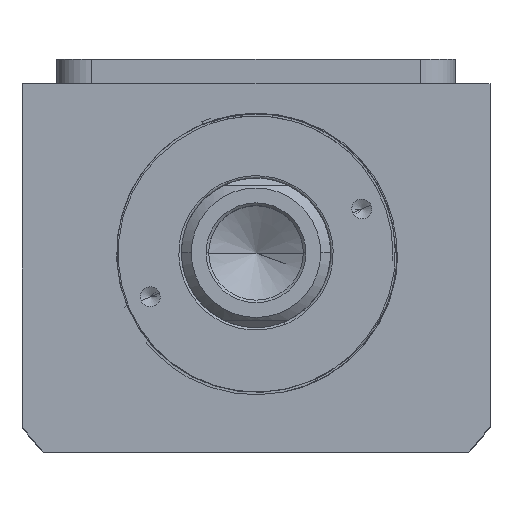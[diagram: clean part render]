
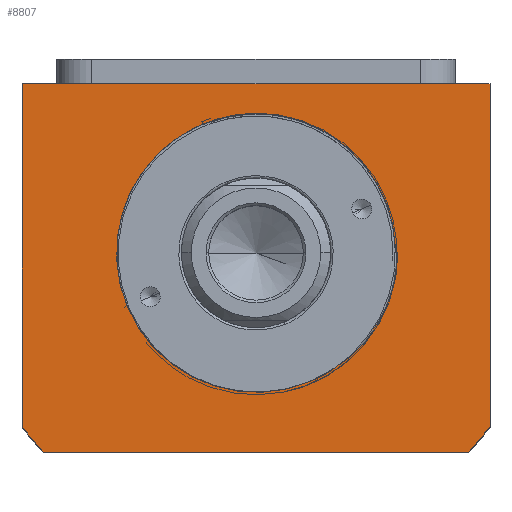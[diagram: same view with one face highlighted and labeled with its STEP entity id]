
A CAD part, top view. The second image highlights one B-rep face of the part: STEP entity #8807.
In plain terms, the highlighted planar face has unit normal (0, 0, 1).
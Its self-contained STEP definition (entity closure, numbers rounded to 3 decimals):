
#155 = CARTESIAN_POINT ( 'NONE',  ( 47., -34.832, 50. ) ) ;
#314 = DIRECTION ( 'NONE',  ( 0., 0., 1. ) ) ;
#332 = CARTESIAN_POINT ( 'NONE',  ( 28., 0., 50. ) ) ;
#530 = EDGE_LOOP ( 'NONE', ( #3583, #7788, #3689, #3619, #9354, #2930 ) ) ;
#596 = CARTESIAN_POINT ( 'NONE',  ( 42.688, -40., 50. ) ) ;
#641 = CARTESIAN_POINT ( 'NONE',  ( 18.667, -21.077, 50. ) ) ;
#672 = VERTEX_POINT ( 'NONE', #4796 ) ;
#938 = DIRECTION ( 'NONE',  ( 0., -1., 0. ) ) ;
#963 = EDGE_CURVE ( 'NONE', #672, #6047, #2236, .T. ) ;
#1000 = ORIENTED_EDGE ( 'NONE', *, *, #8253, .F. ) ;
#1038 = FACE_OUTER_BOUND ( 'NONE', #530, .T. ) ;
#1181 = VECTOR ( 'NONE', #4981, 1000. ) ;
#1433 = VECTOR ( 'NONE', #3213, 1000. ) ;
#1438 = CARTESIAN_POINT ( 'NONE',  ( 0., 0., 50. ) ) ;
#1664 = CARTESIAN_POINT ( 'NONE',  ( 12.831, -24.945, 50. ) ) ;
#1739 = AXIS2_PLACEMENT_3D ( 'NONE', #10869, #5500, #10907 ) ;
#2227 = EDGE_CURVE ( 'NONE', #10815, #672, #11409, .T. ) ;
#2236 = LINE ( 'NONE', #8046, #3635 ) ;
#2237 = ORIENTED_EDGE ( 'NONE', *, *, #2239, .T. ) ;
#2239 = EDGE_CURVE ( 'NONE', #6046, #7389, #2553, .T. ) ;
#2444 = CARTESIAN_POINT ( 'NONE',  ( 28.323, -2.832, 50. ) ) ;
#2518 = CARTESIAN_POINT ( 'NONE',  ( 27.555, -6.99, 50. ) ) ;
#2550 = DIRECTION ( 'NONE',  ( 1., 0., 0. ) ) ;
#2553 = CIRCLE ( 'NONE', #1739, 28. ) ;
#2711 = CARTESIAN_POINT ( 'NONE',  ( -47., 34., 50. ) ) ;
#2930 = ORIENTED_EDGE ( 'NONE', *, *, #11539, .T. ) ;
#3070 = PLANE ( 'NONE',  #3555 ) ;
#3213 = DIRECTION ( 'NONE',  ( 0., 1., 0. ) ) ;
#3307 = CARTESIAN_POINT ( 'NONE',  ( 10.89, -25.816, 50. ) ) ;
#3341 = CARTESIAN_POINT ( 'NONE',  ( 28.233, -3.538, 50. ) ) ;
#3455 = AXIS2_PLACEMENT_3D ( 'NONE', #5750, #314, #6511 ) ;
#3555 = AXIS2_PLACEMENT_3D ( 'NONE', #10256, #9345, #10342 ) ;
#3583 = ORIENTED_EDGE ( 'NONE', *, *, #2227, .T. ) ;
#3619 = ORIENTED_EDGE ( 'NONE', *, *, #10248, .T. ) ;
#3635 = VECTOR ( 'NONE', #938, 1000. ) ;
#3689 = ORIENTED_EDGE ( 'NONE', *, *, #5251, .T. ) ;
#3692 = FACE_BOUND ( 'NONE', #8442, .T. ) ;
#3895 = CARTESIAN_POINT ( 'NONE',  ( 47., 34., 50. ) ) ;
#3975 = CARTESIAN_POINT ( 'NONE',  ( -47., -34.832, 50. ) ) ;
#4008 = EDGE_CURVE ( 'NONE', #4150, #6046, #4642, .T. ) ;
#4150 = VERTEX_POINT ( 'NONE', #4777 ) ;
#4185 = CARTESIAN_POINT ( 'NONE',  ( 27.887, -5.628, 50. ) ) ;
#4197 = EDGE_CURVE ( 'NONE', #5946, #8640, #9829, .T. ) ;
#4223 = CARTESIAN_POINT ( 'NONE',  ( 24.898, -13.504, 50. ) ) ;
#4298 = CARTESIAN_POINT ( 'NONE',  ( 24.178, -14.712, 50. ) ) ;
#4642 = B_SPLINE_CURVE_WITH_KNOTS ( 'NONE', 3,
 ( #10565, #11353, #5170, #2444, #3341, #4185, #2518, #9618, #6069, #4223, #4298, #5950, #11438, #6952, #5098, #641, #8635, #10488, #6872, #6113, #1664, #8668, #3307, #8894 ),
 .UNSPECIFIED., .F., .F.,
 ( 4, 2, 2, 2, 2, 2, 2, 2, 2, 2, 2, 4 ),
 ( 0., 0.002, 0.004, 0.009, 0.013, 0.017, 0.021, 0.023, 0.026, 0.03, 0.032, 0.034 ),
 .UNSPECIFIED. ) ;
#4777 = CARTESIAN_POINT ( 'NONE',  ( 28.495, 0., 50. ) ) ;
#4796 = CARTESIAN_POINT ( 'NONE',  ( -47., 34., 50. ) ) ;
#4981 = DIRECTION ( 'NONE',  ( 1., 0., 0. ) ) ;
#5098 = CARTESIAN_POINT ( 'NONE',  ( 19.714, -20.129, 50. ) ) ;
#5162 = CARTESIAN_POINT ( 'NONE',  ( 42.688, -40., 50. ) ) ;
#5170 = CARTESIAN_POINT ( 'NONE',  ( 28.449, -1.419, 50. ) ) ;
#5251 = EDGE_CURVE ( 'NONE', #6047, #11116, #7850, .T. ) ;
#5327 = ORIENTED_EDGE ( 'NONE', *, *, #4008, .T. ) ;
#5500 = DIRECTION ( 'NONE',  ( 0., 0., -1. ) ) ;
#5706 = AXIS2_PLACEMENT_3D ( 'NONE', #9640, #7013, #2550 ) ;
#5750 = CARTESIAN_POINT ( 'NONE',  ( 0., 0., 50. ) ) ;
#5946 = VERTEX_POINT ( 'NONE', #5162 ) ;
#5950 = CARTESIAN_POINT ( 'NONE',  ( 22.571, -17.007, 50. ) ) ;
#6046 = VERTEX_POINT ( 'NONE', #9511 ) ;
#6047 = VERTEX_POINT ( 'NONE', #3975 ) ;
#6069 = CARTESIAN_POINT ( 'NONE',  ( 26.163, -10.961, 50. ) ) ;
#6079 = CARTESIAN_POINT ( 'NONE',  ( -42.688, -40., 50. ) ) ;
#6113 = CARTESIAN_POINT ( 'NONE',  ( 13.459, -24.624, 50. ) ) ;
#6190 = LINE ( 'NONE', #596, #1181 ) ;
#6487 = LINE ( 'NONE', #1438, #7479 ) ;
#6511 = DIRECTION ( 'NONE',  ( 1., 0., 0. ) ) ;
#6620 = VECTOR ( 'NONE', #9842, 1000. ) ;
#6872 = CARTESIAN_POINT ( 'NONE',  ( 15.3, -23.593, 50. ) ) ;
#6952 = CARTESIAN_POINT ( 'NONE',  ( 20.224, -19.631, 50. ) ) ;
#7013 = DIRECTION ( 'NONE',  ( 0., 0., 1. ) ) ;
#7389 = VERTEX_POINT ( 'NONE', #332 ) ;
#7479 = VECTOR ( 'NONE', #7690, 1000. ) ;
#7690 = DIRECTION ( 'NONE',  ( -1., 0., 0. ) ) ;
#7788 = ORIENTED_EDGE ( 'NONE', *, *, #963, .T. ) ;
#7850 = CIRCLE ( 'NONE', #5706, 58.5 ) ;
#8046 = CARTESIAN_POINT ( 'NONE',  ( -47., -34.832, 50. ) ) ;
#8253 = EDGE_CURVE ( 'NONE', #4150, #7389, #6487, .T. ) ;
#8442 = EDGE_LOOP ( 'NONE', ( #1000, #5327, #2237 ) ) ;
#8616 = CARTESIAN_POINT ( 'NONE',  ( 47., 34., 50. ) ) ;
#8635 = CARTESIAN_POINT ( 'NONE',  ( 18.129, -21.529, 50. ) ) ;
#8640 = VERTEX_POINT ( 'NONE', #155 ) ;
#8668 = CARTESIAN_POINT ( 'NONE',  ( 11.542, -25.544, 50. ) ) ;
#8807 = ADVANCED_FACE ( 'NONE', ( #3692, #1038 ), #3070, .T. ) ;
#8894 = CARTESIAN_POINT ( 'NONE',  ( 10.232, -26.064, 50. ) ) ;
#9265 = LINE ( 'NONE', #8616, #1433 ) ;
#9345 = DIRECTION ( 'NONE',  ( 0., 0., 1. ) ) ;
#9354 = ORIENTED_EDGE ( 'NONE', *, *, #4197, .T. ) ;
#9511 = CARTESIAN_POINT ( 'NONE',  ( 10.232, -26.064, 50. ) ) ;
#9618 = CARTESIAN_POINT ( 'NONE',  ( 26.694, -9.657, 50. ) ) ;
#9640 = CARTESIAN_POINT ( 'NONE',  ( 0., 0., 50. ) ) ;
#9829 = CIRCLE ( 'NONE', #3455, 58.5 ) ;
#9842 = DIRECTION ( 'NONE',  ( -1., 0., 0. ) ) ;
#10248 = EDGE_CURVE ( 'NONE', #11116, #5946, #6190, .T. ) ;
#10256 = CARTESIAN_POINT ( 'NONE',  ( 0., 0., 50. ) ) ;
#10342 = DIRECTION ( 'NONE',  ( 1., 0., 0. ) ) ;
#10488 = CARTESIAN_POINT ( 'NONE',  ( 16.467, -22.819, 50. ) ) ;
#10565 = CARTESIAN_POINT ( 'NONE',  ( 28.495, 0., 50. ) ) ;
#10815 = VERTEX_POINT ( 'NONE', #3895 ) ;
#10869 = CARTESIAN_POINT ( 'NONE',  ( 0., 0., 50. ) ) ;
#10907 = DIRECTION ( 'NONE',  ( 1., 0., 0. ) ) ;
#11116 = VERTEX_POINT ( 'NONE', #6079 ) ;
#11353 = CARTESIAN_POINT ( 'NONE',  ( 28.485, -0.71, 50. ) ) ;
#11409 = LINE ( 'NONE', #2711, #6620 ) ;
#11438 = CARTESIAN_POINT ( 'NONE',  ( 21.684, -18.094, 50. ) ) ;
#11539 = EDGE_CURVE ( 'NONE', #8640, #10815, #9265, .T. ) ;
